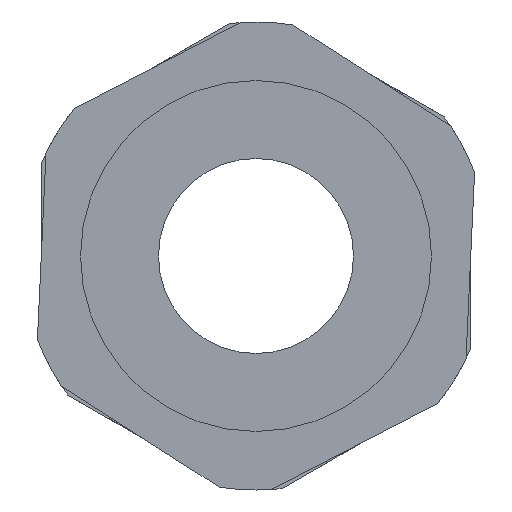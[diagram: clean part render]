
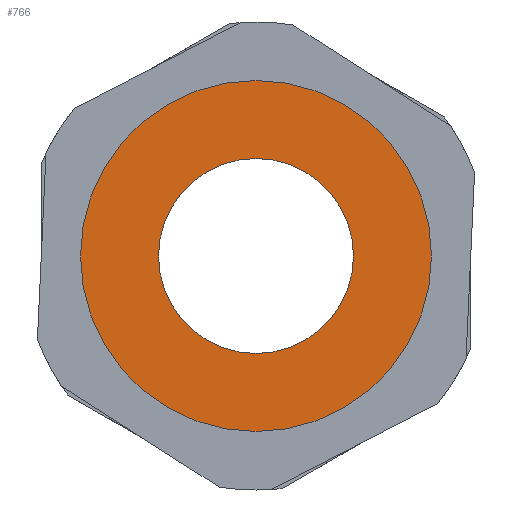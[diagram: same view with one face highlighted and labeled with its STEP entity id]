
A CAD part, front view. The second image highlights one B-rep face of the part: STEP entity #766.
In plain terms, the highlighted planar face has unit normal (0, -1, 0).
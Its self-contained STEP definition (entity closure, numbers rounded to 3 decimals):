
#79 = PLANE ( 'NONE',  #346 ) ;
#181 = VERTEX_POINT ( 'NONE', #825 ) ;
#215 = CARTESIAN_POINT ( 'NONE',  ( 0., 0., 5. ) ) ;
#223 = AXIS2_PLACEMENT_3D ( 'NONE', #2028, #316, #1092 ) ;
#316 = DIRECTION ( 'NONE',  ( 0., -1., 0. ) ) ;
#346 = AXIS2_PLACEMENT_3D ( 'NONE', #623, #1772, #1036 ) ;
#401 = VERTEX_POINT ( 'NONE', #1965 ) ;
#522 = DIRECTION ( 'NONE',  ( 0., 0., -1. ) ) ;
#617 = EDGE_LOOP ( 'NONE', ( #1314, #1291 ) ) ;
#623 = CARTESIAN_POINT ( 'NONE',  ( 0., 0., 5. ) ) ;
#766 = ADVANCED_FACE ( 'NONE', ( #1236, #2316 ), #79, .F. ) ;
#825 = CARTESIAN_POINT ( 'NONE',  ( 0., 0., 9. ) ) ;
#845 = CIRCLE ( 'NONE', #223, 5. ) ;
#992 = EDGE_CURVE ( 'NONE', #401, #1192, #845, .T. ) ;
#1015 = CARTESIAN_POINT ( 'NONE',  ( 0., 0., 0. ) ) ;
#1036 = DIRECTION ( 'NONE',  ( 0., 0., 1. ) ) ;
#1042 = EDGE_CURVE ( 'NONE', #1192, #401, #1845, .T. ) ;
#1092 = DIRECTION ( 'NONE',  ( 0., 0., -1. ) ) ;
#1192 = VERTEX_POINT ( 'NONE', #215 ) ;
#1236 = FACE_BOUND ( 'NONE', #617, .T. ) ;
#1277 = AXIS2_PLACEMENT_3D ( 'NONE', #2202, #1848, #1288 ) ;
#1288 = DIRECTION ( 'NONE',  ( 0., 0., -1. ) ) ;
#1291 = ORIENTED_EDGE ( 'NONE', *, *, #1042, .F. ) ;
#1305 = CARTESIAN_POINT ( 'NONE',  ( 0., 0., 0. ) ) ;
#1314 = ORIENTED_EDGE ( 'NONE', *, *, #992, .F. ) ;
#1515 = ORIENTED_EDGE ( 'NONE', *, *, #2213, .T. ) ;
#1663 = AXIS2_PLACEMENT_3D ( 'NONE', #1305, #2199, #522 ) ;
#1687 = AXIS2_PLACEMENT_3D ( 'NONE', #1015, #1952, #1958 ) ;
#1721 = CIRCLE ( 'NONE', #1687, 9. ) ;
#1772 = DIRECTION ( 'NONE',  ( 0., 1., 0. ) ) ;
#1845 = CIRCLE ( 'NONE', #1663, 5. ) ;
#1848 = DIRECTION ( 'NONE',  ( 0., -1., 0. ) ) ;
#1868 = CIRCLE ( 'NONE', #1277, 9. ) ;
#1952 = DIRECTION ( 'NONE',  ( 0., -1., 0. ) ) ;
#1958 = DIRECTION ( 'NONE',  ( 0., 0., -1. ) ) ;
#1965 = CARTESIAN_POINT ( 'NONE',  ( 0., 0., -5. ) ) ;
#2028 = CARTESIAN_POINT ( 'NONE',  ( 0., 0., 0. ) ) ;
#2054 = EDGE_CURVE ( 'NONE', #2452, #181, #1721, .T. ) ;
#2084 = ORIENTED_EDGE ( 'NONE', *, *, #2054, .T. ) ;
#2199 = DIRECTION ( 'NONE',  ( 0., -1., 0. ) ) ;
#2202 = CARTESIAN_POINT ( 'NONE',  ( 0., 0., 0. ) ) ;
#2213 = EDGE_CURVE ( 'NONE', #181, #2452, #1868, .T. ) ;
#2316 = FACE_OUTER_BOUND ( 'NONE', #2352, .T. ) ;
#2352 = EDGE_LOOP ( 'NONE', ( #2084, #1515 ) ) ;
#2422 = CARTESIAN_POINT ( 'NONE',  ( 0., 0., -9. ) ) ;
#2452 = VERTEX_POINT ( 'NONE', #2422 ) ;
